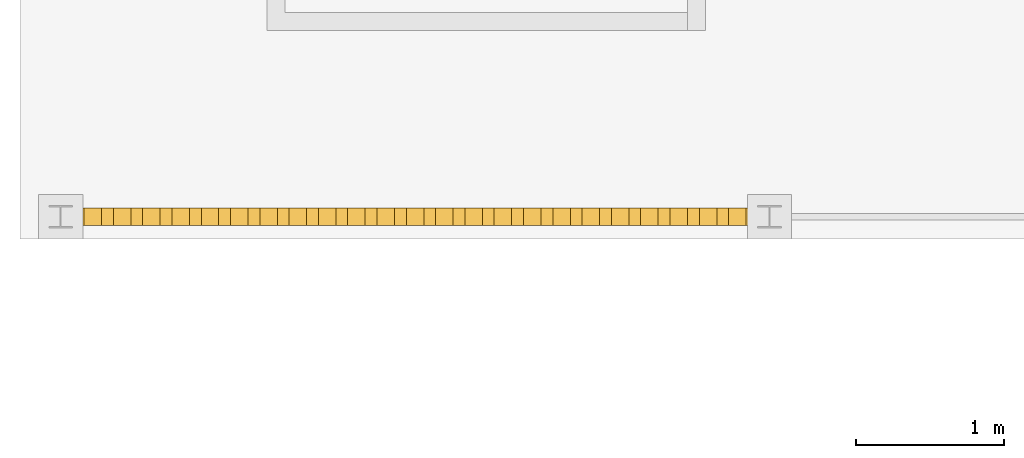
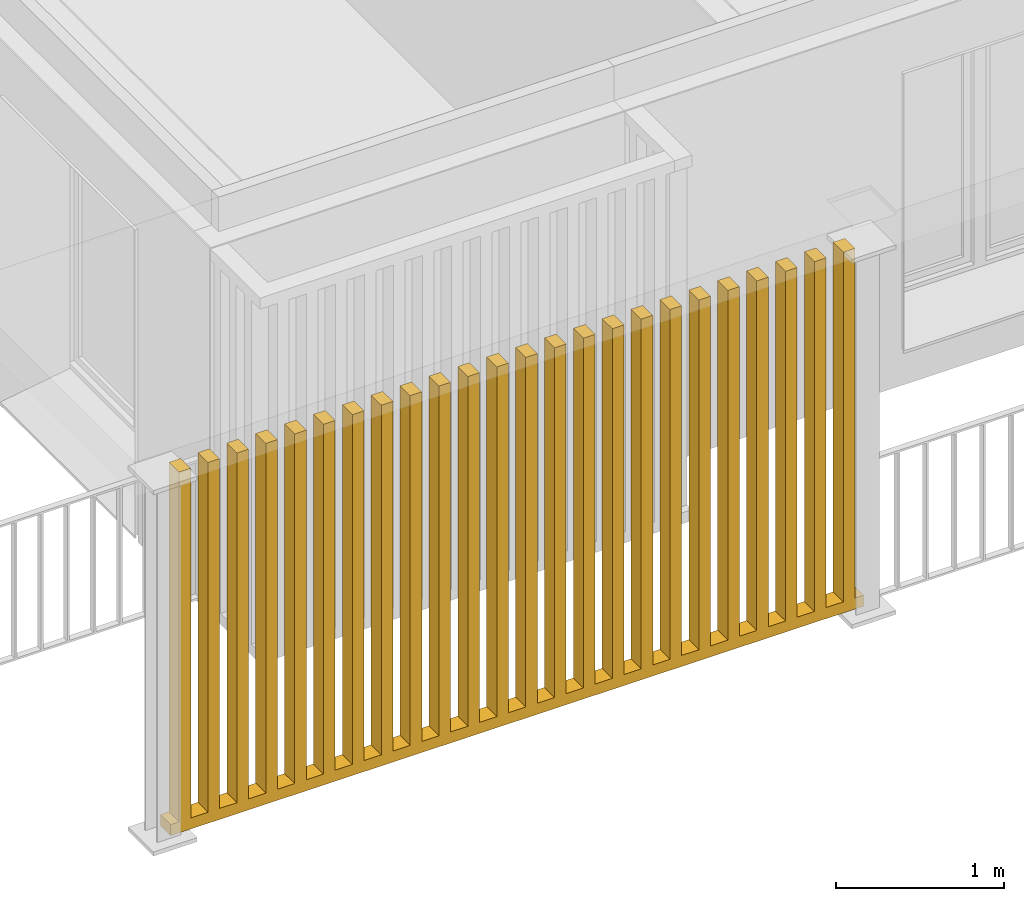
# One storey, part 22 of 34: 1 railing.
"""IFC4 building model written with IfcOpenShell, lengths in millimetres."""

from ifc_helpers import new_model, entity, si_unit, converted_unit, derived_unit, direction, frame, origin_with_axes, place, context, subcontext, project, spatial, polygons, material, constituent, constituent_set, type_object, element, save


model = new_model("IFC4")

# Units and contexts
model_context = context("Model", 3, precision=0.01, world=origin_with_axes(), true_north=direction((0.0, 1.0)))
body_context = subcontext(model_context, "Body", "Model", "MODEL_VIEW")
ifc_project = project(units=[si_unit("LENGTHUNIT", "METRE", prefix="MILLI"), si_unit("AREAUNIT", "SQUARE_METRE"), si_unit("VOLUMEUNIT", "CUBIC_METRE"), converted_unit("PLANEANGLEUNIT", "DEGREE", entity("IfcPlaneAngleMeasure", 0.0174532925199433), si_unit("PLANEANGLEUNIT", "RADIAN"), dimensions=[0, 0, 0, 0, 0, 0, 0]), converted_unit("TIMEUNIT", "Year", entity("IfcTimeMeasure", 31557600.0), si_unit("TIMEUNIT", "SECOND"), dimensions=[0, 0, 1, 0, 0, 0, 0]), si_unit("MASSUNIT", "GRAM", prefix="KILO"), si_unit("THERMODYNAMICTEMPERATUREUNIT", "DEGREE_CELSIUS"), si_unit("LUMINOUSINTENSITYUNIT", "LUMEN"), si_unit("ENERGYUNIT", "JOULE", prefix="MEGA"), derived_unit("THERMALCONDUCTANCEUNIT", [(si_unit("POWERUNIT", "WATT"), 1), (si_unit("LENGTHUNIT", "METRE"), -1), (si_unit("THERMODYNAMICTEMPERATUREUNIT", "KELVIN"), -1)]), derived_unit("SPECIFICHEATCAPACITYUNIT", [(si_unit("ENERGYUNIT", "JOULE"), 1), (si_unit("MASSUNIT", "GRAM", prefix="KILO"), -1), (si_unit("THERMODYNAMICTEMPERATUREUNIT", "KELVIN"), -1)]), derived_unit("MASSDENSITYUNIT", [(si_unit("MASSUNIT", "GRAM", prefix="KILO"), 1), (si_unit("VOLUMEUNIT", "CUBIC_METRE"), -1)])], contexts=[model_context])

# Site, building, storey
site_placement = place(None, origin_with_axes())
site = spatial("IfcSite", under=ifc_project, at=site_placement, Name="Gelände", CompositionType="ELEMENT")
building_placement = place(site_placement, origin_with_axes())
building = spatial("IfcBuilding", under=site, at=building_placement, Name="Gebäude", CompositionType="ELEMENT")
storey_placement = place(building_placement, frame((0.0, 0.0, 2900.0), z_axis=(0.0, 0.0, 1.0), x_axis=(1.0, 0.0, 0.0)))
storey = spatial("IfcBuildingStorey", under=building, at=storey_placement, Name="1.OG", CompositionType="ELEMENT", Elevation=2900.0)

# Railing
ifc_material = material(Name="Vollholzwerkstoff")
ifc_constituent_1 = constituent(ifc_material, Name="Vollholzwerkstoff 1")
ifc_constituent_2 = constituent(ifc_material, Name="Vollholzwerkstoff 2")
ifc_constituent_3 = constituent(ifc_material, Name="Vollholzwerkstoff 3")
ifc_constituent_4 = constituent(ifc_material, Name="Vollholzwerkstoff 4")
ifc_constituent_5 = constituent(ifc_material, Name="Vollholzwerkstoff 5")
ifc_constituent_6 = constituent(ifc_material, Name="Vollholzwerkstoff 6")
ifc_constituent_7 = constituent(ifc_material, Name="Vollholzwerkstoff 7")
ifc_constituent_8 = constituent(ifc_material, Name="Vollholzwerkstoff 8")
ifc_constituent_9 = constituent(ifc_material, Name="Vollholzwerkstoff 9")
ifc_constituent_10 = constituent(ifc_material, Name="Vollholzwerkstoff 10")
ifc_constituent_11 = constituent(ifc_material, Name="Vollholzwerkstoff 11")
ifc_constituent_12 = constituent(ifc_material, Name="Vollholzwerkstoff 12")
ifc_constituent_13 = constituent(ifc_material, Name="Vollholzwerkstoff 13")
ifc_constituent_14 = constituent(ifc_material, Name="Vollholzwerkstoff 14")
ifc_constituent_15 = constituent(ifc_material, Name="Vollholzwerkstoff 15")
ifc_constituent_16 = constituent(ifc_material, Name="Vollholzwerkstoff 16")
ifc_constituent_17 = constituent(ifc_material, Name="Vollholzwerkstoff 17")
ifc_constituent_18 = constituent(ifc_material, Name="Vollholzwerkstoff 18")
ifc_constituent_19 = constituent(ifc_material, Name="Vollholzwerkstoff 19")
ifc_constituent_20 = constituent(ifc_material, Name="Vollholzwerkstoff 20")
ifc_constituent_21 = constituent(ifc_material, Name="Vollholzwerkstoff 21")
ifc_constituent_22 = constituent(ifc_material, Name="Vollholzwerkstoff 22")
ifc_constituent_23 = constituent(ifc_material, Name="Vollholzwerkstoff 23")
ifc_constituent_24 = constituent(ifc_material, Name="Vollholzwerkstoff 24")
ifc_constituent_25 = constituent(ifc_material, Name="Vollholzwerkstoff 25")
ifc_constituent_set = constituent_set(constituents=[ifc_constituent_1, ifc_constituent_2, ifc_constituent_3, ifc_constituent_4, ifc_constituent_5, ifc_constituent_6, ifc_constituent_7, ifc_constituent_8, ifc_constituent_9, ifc_constituent_10, ifc_constituent_11, ifc_constituent_12, ifc_constituent_13, ifc_constituent_14, ifc_constituent_15, ifc_constituent_16, ifc_constituent_17, ifc_constituent_18, ifc_constituent_19, ifc_constituent_20, ifc_constituent_21, ifc_constituent_22, ifc_constituent_23, ifc_constituent_24, ifc_constituent_25])
railing_type = type_object("IfcRailingType", Name="Geländerart", PredefinedType="NOTDEFINED")
railing_placement = place(storey_placement, frame((-8585.063643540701, 21097.59674077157, 74.99999999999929), z_axis=(0.0, 0.0, 1.0), x_axis=(1.0, 0.0, 0.0)))
element("IfcRailing", 1, at=railing_placement, inside=storey, type_object=railing_type, material=ifc_constituent_set, Name="Geländer-001", PredefinedType="NOTDEFINED", context=body_context, shape_type="Tessellation", body=[
    polygons([(139.0594620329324, -59.99999999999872, 40.00000000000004), (139.0594620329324, -59.99999999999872, -40.00000000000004), (4889.859462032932, -59.99999999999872, -40.00000000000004), (4889.859462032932, -59.99999999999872, 40.00000000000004), (139.0594620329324, 59.99999999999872, 40.00000000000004), (139.0594620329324, 59.99999999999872, -40.00000000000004), (4889.859462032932, 59.99999999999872, -40.00000000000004), (4889.859462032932, 59.99999999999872, 40.00000000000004)], [[[1, 2, 3, 4]], [[1, 5, 6, 2]], [[2, 6, 7, 3]], [[4, 3, 7, 8]], [[5, 1, 4, 8]], [[6, 5, 8, 7]]], closed=True),
    polygons([(197.0914620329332, 59.99999999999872, 2574.999999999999), (277.0914620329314, 59.99999999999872, 2574.999999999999), (277.0914620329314, 59.99999999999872, 40.00000000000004), (197.0914620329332, 59.99999999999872, 40.00000000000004), (277.0914620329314, -59.99999999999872, 2574.999999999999), (197.0914620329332, -59.99999999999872, 2574.999999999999), (277.0914620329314, -59.99999999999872, 40.00000000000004), (197.0914620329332, -59.99999999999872, 40.00000000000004)], [[[1, 2, 3, 4]], [[5, 2, 1, 6]], [[2, 5, 7, 3]], [[3, 7, 8, 4]], [[6, 1, 4, 8]], [[5, 6, 8, 7]]], closed=True),
    polygons([(395.1234620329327, 59.99999999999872, 2574.999999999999), (475.123462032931, 59.99999999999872, 2574.999999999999), (475.123462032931, 59.99999999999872, 40.00000000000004), (395.1234620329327, 59.99999999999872, 40.00000000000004), (475.123462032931, -59.99999999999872, 2574.999999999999), (395.1234620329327, -59.99999999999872, 2574.999999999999), (475.123462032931, -59.99999999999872, 40.00000000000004), (395.1234620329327, -59.99999999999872, 40.00000000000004)], [[[1, 2, 3, 4]], [[5, 2, 1, 6]], [[2, 5, 7, 3]], [[3, 7, 8, 4]], [[6, 1, 4, 8]], [[5, 6, 8, 7]]], closed=True),
    polygons([(593.1554620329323, 59.99999999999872, 2574.999999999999), (673.1554620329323, 59.99999999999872, 2574.999999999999), (673.1554620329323, 59.99999999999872, 40.00000000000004), (593.1554620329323, 59.99999999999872, 40.00000000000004), (673.1554620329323, -59.99999999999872, 2574.999999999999), (593.1554620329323, -59.99999999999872, 2574.999999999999), (673.1554620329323, -59.99999999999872, 40.00000000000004), (593.1554620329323, -59.99999999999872, 40.00000000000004)], [[[1, 2, 3, 4]], [[5, 2, 1, 6]], [[2, 5, 7, 3]], [[3, 7, 8, 4]], [[6, 1, 4, 8]], [[5, 6, 8, 7]]], closed=True),
    polygons([(791.1874620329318, 59.99999999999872, 2574.999999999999), (871.1874620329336, 59.99999999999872, 2574.999999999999), (871.1874620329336, 59.99999999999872, 40.00000000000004), (791.1874620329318, 59.99999999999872, 40.00000000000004), (871.1874620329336, -59.99999999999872, 2574.999999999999), (791.1874620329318, -59.99999999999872, 2574.999999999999), (871.1874620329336, -59.99999999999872, 40.00000000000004), (791.1874620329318, -59.99999999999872, 40.00000000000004)], [[[1, 2, 3, 4]], [[5, 2, 1, 6]], [[2, 5, 7, 3]], [[3, 7, 8, 4]], [[6, 1, 4, 8]], [[5, 6, 8, 7]]], closed=True),
    polygons([(989.219462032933, 59.99999999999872, 2574.999999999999), (1069.219462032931, 59.99999999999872, 2574.999999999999), (1069.219462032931, 59.99999999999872, 40.00000000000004), (989.219462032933, 59.99999999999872, 40.00000000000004), (1069.219462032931, -59.99999999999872, 2574.999999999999), (989.219462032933, -59.99999999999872, 2574.999999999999), (1069.219462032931, -59.99999999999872, 40.00000000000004), (989.219462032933, -59.99999999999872, 40.00000000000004)], [[[1, 2, 3, 4]], [[5, 2, 1, 6]], [[2, 5, 7, 3]], [[3, 7, 8, 4]], [[6, 1, 4, 8]], [[5, 6, 8, 7]]], closed=True),
    polygons([(1187.251462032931, 59.99999999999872, 2574.999999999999), (1267.251462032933, 59.99999999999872, 2574.999999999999), (1267.251462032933, 59.99999999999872, 40.00000000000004), (1187.251462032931, 59.99999999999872, 40.00000000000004), (1267.251462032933, -59.99999999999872, 2574.999999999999), (1187.251462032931, -59.99999999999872, 2574.999999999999), (1267.251462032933, -59.99999999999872, 40.00000000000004), (1187.251462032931, -59.99999999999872, 40.00000000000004)], [[[1, 2, 3, 4]], [[5, 2, 1, 6]], [[2, 5, 7, 3]], [[3, 7, 8, 4]], [[6, 1, 4, 8]], [[5, 6, 8, 7]]], closed=True),
    polygons([(1385.283462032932, 59.99999999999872, 2574.999999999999), (1465.283462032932, 59.99999999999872, 2574.999999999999), (1465.283462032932, 59.99999999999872, 40.00000000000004), (1385.283462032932, 59.99999999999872, 40.00000000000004), (1465.283462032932, -59.99999999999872, 2574.999999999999), (1385.283462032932, -59.99999999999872, 2574.999999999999), (1465.283462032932, -59.99999999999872, 40.00000000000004), (1385.283462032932, -59.99999999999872, 40.00000000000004)], [[[1, 2, 3, 4]], [[5, 2, 1, 6]], [[2, 5, 7, 3]], [[3, 7, 8, 4]], [[6, 1, 4, 8]], [[5, 6, 8, 7]]], closed=True),
    polygons([(1583.315462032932, 59.99999999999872, 2574.999999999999), (1663.315462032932, 59.99999999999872, 2574.999999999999), (1663.315462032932, 59.99999999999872, 40.00000000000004), (1583.315462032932, 59.99999999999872, 40.00000000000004), (1663.315462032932, -59.99999999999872, 2574.999999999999), (1583.315462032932, -59.99999999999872, 2574.999999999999), (1663.315462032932, -59.99999999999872, 40.00000000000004), (1583.315462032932, -59.99999999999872, 40.00000000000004)], [[[1, 2, 3, 4]], [[5, 2, 1, 6]], [[2, 5, 7, 3]], [[3, 7, 8, 4]], [[6, 1, 4, 8]], [[5, 6, 8, 7]]], closed=True),
    polygons([(1781.347462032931, 59.99999999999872, 2574.999999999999), (1861.347462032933, 59.99999999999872, 2574.999999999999), (1861.347462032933, 59.99999999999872, 40.00000000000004), (1781.347462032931, 59.99999999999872, 40.00000000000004), (1861.347462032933, -59.99999999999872, 2574.999999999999), (1781.347462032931, -59.99999999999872, 2574.999999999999), (1861.347462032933, -59.99999999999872, 40.00000000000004), (1781.347462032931, -59.99999999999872, 40.00000000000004)], [[[1, 2, 3, 4]], [[5, 2, 1, 6]], [[2, 5, 7, 3]], [[3, 7, 8, 4]], [[6, 1, 4, 8]], [[5, 6, 8, 7]]], closed=True),
    polygons([(1979.379462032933, 59.99999999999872, 2574.999999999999), (2059.379462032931, 59.99999999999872, 2574.999999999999), (2059.379462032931, 59.99999999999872, 40.00000000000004), (1979.379462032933, 59.99999999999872, 40.00000000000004), (2059.379462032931, -59.99999999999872, 2574.999999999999), (1979.379462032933, -59.99999999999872, 2574.999999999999), (2059.379462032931, -59.99999999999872, 40.00000000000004), (1979.379462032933, -59.99999999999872, 40.00000000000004)], [[[1, 2, 3, 4]], [[5, 2, 1, 6]], [[2, 5, 7, 3]], [[3, 7, 8, 4]], [[6, 1, 4, 8]], [[5, 6, 8, 7]]], closed=True),
    polygons([(2177.411462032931, 59.99999999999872, 2574.999999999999), (2257.411462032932, 59.99999999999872, 2574.999999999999), (2257.411462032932, 59.99999999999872, 40.00000000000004), (2177.411462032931, 59.99999999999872, 40.00000000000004), (2257.411462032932, -59.99999999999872, 2574.999999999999), (2177.411462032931, -59.99999999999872, 2574.999999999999), (2257.411462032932, -59.99999999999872, 40.00000000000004), (2177.411462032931, -59.99999999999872, 40.00000000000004)], [[[1, 2, 3, 4]], [[5, 2, 1, 6]], [[2, 5, 7, 3]], [[3, 7, 8, 4]], [[6, 1, 4, 8]], [[5, 6, 8, 7]]], closed=True),
    polygons([(2375.443462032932, 59.99999999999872, 2574.999999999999), (2455.443462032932, 59.99999999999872, 2574.999999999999), (2455.443462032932, 59.99999999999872, 40.00000000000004), (2375.443462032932, 59.99999999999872, 40.00000000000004), (2455.443462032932, -59.99999999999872, 2574.999999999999), (2375.443462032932, -59.99999999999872, 2574.999999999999), (2455.443462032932, -59.99999999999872, 40.00000000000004), (2375.443462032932, -59.99999999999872, 40.00000000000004)], [[[1, 2, 3, 4]], [[5, 2, 1, 6]], [[2, 5, 7, 3]], [[3, 7, 8, 4]], [[6, 1, 4, 8]], [[5, 6, 8, 7]]], closed=True),
    polygons([(2573.475462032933, 59.99999999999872, 2574.999999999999), (2653.475462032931, 59.99999999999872, 2574.999999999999), (2653.475462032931, 59.99999999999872, 40.00000000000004), (2573.475462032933, 59.99999999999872, 40.00000000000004), (2653.475462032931, -59.99999999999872, 2574.999999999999), (2573.475462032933, -59.99999999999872, 2574.999999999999), (2653.475462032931, -59.99999999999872, 40.00000000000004), (2573.475462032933, -59.99999999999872, 40.00000000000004)], [[[1, 2, 3, 4]], [[5, 2, 1, 6]], [[2, 5, 7, 3]], [[3, 7, 8, 4]], [[6, 1, 4, 8]], [[5, 6, 8, 7]]], closed=True),
    polygons([(2771.507462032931, 59.99999999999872, 2574.999999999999), (2851.507462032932, 59.99999999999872, 2574.999999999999), (2851.507462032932, 59.99999999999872, 40.00000000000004), (2771.507462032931, 59.99999999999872, 40.00000000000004), (2851.507462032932, -59.99999999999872, 2574.999999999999), (2771.507462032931, -59.99999999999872, 2574.999999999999), (2851.507462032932, -59.99999999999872, 40.00000000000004), (2771.507462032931, -59.99999999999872, 40.00000000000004)], [[[1, 2, 3, 4]], [[5, 2, 1, 6]], [[2, 5, 7, 3]], [[3, 7, 8, 4]], [[6, 1, 4, 8]], [[5, 6, 8, 7]]], closed=True),
    polygons([(2969.539462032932, 59.99999999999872, 2574.999999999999), (3049.53946203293, 59.99999999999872, 2574.999999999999), (3049.53946203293, 59.99999999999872, 40.00000000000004), (2969.539462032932, 59.99999999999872, 40.00000000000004), (3049.53946203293, -59.99999999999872, 2574.999999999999), (2969.539462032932, -59.99999999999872, 2574.999999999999), (3049.53946203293, -59.99999999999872, 40.00000000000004), (2969.539462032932, -59.99999999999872, 40.00000000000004)], [[[1, 2, 3, 4]], [[5, 2, 1, 6]], [[2, 5, 7, 3]], [[3, 7, 8, 4]], [[6, 1, 4, 8]], [[5, 6, 8, 7]]], closed=True),
    polygons([(3167.571462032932, 59.99999999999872, 2574.999999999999), (3247.571462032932, 59.99999999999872, 2574.999999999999), (3247.571462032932, 59.99999999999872, 40.00000000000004), (3167.571462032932, 59.99999999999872, 40.00000000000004), (3247.571462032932, -59.99999999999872, 2574.999999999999), (3167.571462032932, -59.99999999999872, 2574.999999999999), (3247.571462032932, -59.99999999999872, 40.00000000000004), (3167.571462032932, -59.99999999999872, 40.00000000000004)], [[[1, 2, 3, 4]], [[5, 2, 1, 6]], [[2, 5, 7, 3]], [[3, 7, 8, 4]], [[6, 1, 4, 8]], [[5, 6, 8, 7]]], closed=True),
    polygons([(3365.603462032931, 59.99999999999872, 2574.999999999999), (3445.603462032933, 59.99999999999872, 2574.999999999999), (3445.603462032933, 59.99999999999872, 40.00000000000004), (3365.603462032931, 59.99999999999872, 40.00000000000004), (3445.603462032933, -59.99999999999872, 2574.999999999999), (3365.603462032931, -59.99999999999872, 2574.999999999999), (3445.603462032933, -59.99999999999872, 40.00000000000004), (3365.603462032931, -59.99999999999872, 40.00000000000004)], [[[1, 2, 3, 4]], [[5, 2, 1, 6]], [[2, 5, 7, 3]], [[3, 7, 8, 4]], [[6, 1, 4, 8]], [[5, 6, 8, 7]]], closed=True),
    polygons([(3563.635462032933, 59.99999999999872, 2574.999999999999), (3643.635462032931, 59.99999999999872, 2574.999999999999), (3643.635462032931, 59.99999999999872, 40.00000000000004), (3563.635462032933, 59.99999999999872, 40.00000000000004), (3643.635462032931, -59.99999999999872, 2574.999999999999), (3563.635462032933, -59.99999999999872, 2574.999999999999), (3643.635462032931, -59.99999999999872, 40.00000000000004), (3563.635462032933, -59.99999999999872, 40.00000000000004)], [[[1, 2, 3, 4]], [[5, 2, 1, 6]], [[2, 5, 7, 3]], [[3, 7, 8, 4]], [[6, 1, 4, 8]], [[5, 6, 8, 7]]], closed=True),
    polygons([(3761.66746203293, 59.99999999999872, 2574.999999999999), (3841.667462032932, 59.99999999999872, 2574.999999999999), (3841.667462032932, 59.99999999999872, 40.00000000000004), (3761.66746203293, 59.99999999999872, 40.00000000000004), (3841.667462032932, -59.99999999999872, 2574.999999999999), (3761.66746203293, -59.99999999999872, 2574.999999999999), (3841.667462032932, -59.99999999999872, 40.00000000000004), (3761.66746203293, -59.99999999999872, 40.00000000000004)], [[[1, 2, 3, 4]], [[5, 2, 1, 6]], [[2, 5, 7, 3]], [[3, 7, 8, 4]], [[6, 1, 4, 8]], [[5, 6, 8, 7]]], closed=True),
    polygons([(3959.699462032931, 59.99999999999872, 2574.999999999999), (4039.699462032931, 59.99999999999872, 2574.999999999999), (4039.699462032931, 59.99999999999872, 40.00000000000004), (3959.699462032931, 59.99999999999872, 40.00000000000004), (4039.699462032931, -59.99999999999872, 2574.999999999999), (3959.699462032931, -59.99999999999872, 2574.999999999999), (4039.699462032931, -59.99999999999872, 40.00000000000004), (3959.699462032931, -59.99999999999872, 40.00000000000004)], [[[1, 2, 3, 4]], [[5, 2, 1, 6]], [[2, 5, 7, 3]], [[3, 7, 8, 4]], [[6, 1, 4, 8]], [[5, 6, 8, 7]]], closed=True),
    polygons([(4157.731462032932, 59.99999999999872, 2574.999999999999), (4237.731462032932, 59.99999999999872, 2574.999999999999), (4237.731462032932, 59.99999999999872, 40.00000000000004), (4157.731462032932, 59.99999999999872, 40.00000000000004), (4237.731462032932, -59.99999999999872, 2574.999999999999), (4157.731462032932, -59.99999999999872, 2574.999999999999), (4237.731462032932, -59.99999999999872, 40.00000000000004), (4157.731462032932, -59.99999999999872, 40.00000000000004)], [[[1, 2, 3, 4]], [[5, 2, 1, 6]], [[2, 5, 7, 3]], [[3, 7, 8, 4]], [[6, 1, 4, 8]], [[5, 6, 8, 7]]], closed=True),
    polygons([(4355.763462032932, 59.99999999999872, 2574.999999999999), (4435.763462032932, 59.99999999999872, 2574.999999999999), (4435.763462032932, 59.99999999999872, 40.00000000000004), (4355.763462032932, 59.99999999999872, 40.00000000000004), (4435.763462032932, -59.99999999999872, 2574.999999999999), (4355.763462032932, -59.99999999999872, 2574.999999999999), (4435.763462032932, -59.99999999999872, 40.00000000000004), (4355.763462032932, -59.99999999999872, 40.00000000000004)], [[[1, 2, 3, 4]], [[5, 2, 1, 6]], [[2, 5, 7, 3]], [[3, 7, 8, 4]], [[6, 1, 4, 8]], [[5, 6, 8, 7]]], closed=True),
    polygons([(4553.795462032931, 59.99999999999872, 2574.999999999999), (4633.795462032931, 59.99999999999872, 2574.999999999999), (4633.795462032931, 59.99999999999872, 40.00000000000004), (4553.795462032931, 59.99999999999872, 40.00000000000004), (4633.795462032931, -59.99999999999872, 2574.999999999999), (4553.795462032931, -59.99999999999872, 2574.999999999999), (4633.795462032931, -59.99999999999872, 40.00000000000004), (4553.795462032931, -59.99999999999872, 40.00000000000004)], [[[1, 2, 3, 4]], [[5, 2, 1, 6]], [[2, 5, 7, 3]], [[3, 7, 8, 4]], [[6, 1, 4, 8]], [[5, 6, 8, 7]]], closed=True),
    polygons([(4751.82746203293, 59.99999999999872, 2574.999999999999), (4831.82746203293, 59.99999999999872, 2574.999999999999), (4831.82746203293, 59.99999999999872, 40.00000000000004), (4751.82746203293, 59.99999999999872, 40.00000000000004), (4831.82746203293, -59.99999999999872, 2574.999999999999), (4751.82746203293, -59.99999999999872, 2574.999999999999), (4831.82746203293, -59.99999999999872, 40.00000000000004), (4751.82746203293, -59.99999999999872, 40.00000000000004)], [[[1, 2, 3, 4]], [[5, 2, 1, 6]], [[2, 5, 7, 3]], [[3, 7, 8, 4]], [[6, 1, 4, 8]], [[5, 6, 8, 7]]], closed=True),
])

save(model, "model.ifc")
